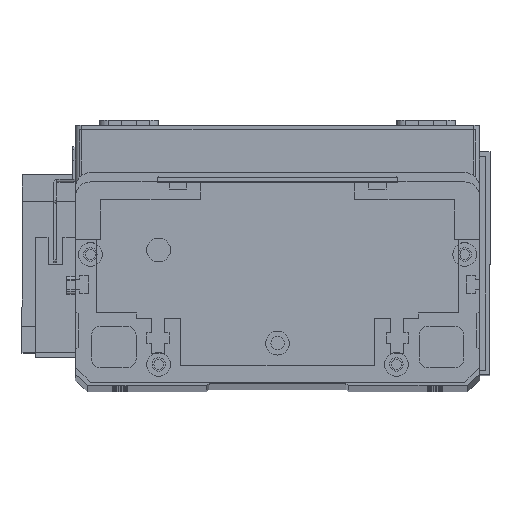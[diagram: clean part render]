
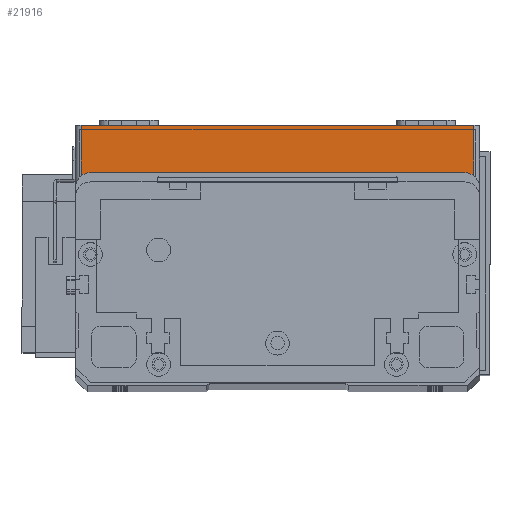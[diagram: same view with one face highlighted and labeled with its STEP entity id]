
A CAD part, top view. The second image highlights one B-rep face of the part: STEP entity #21916.
In plain terms, the highlighted planar face has unit normal (0, 0, 1) as drawn and (0, -1, 0) by its records, which use the part's own axes.
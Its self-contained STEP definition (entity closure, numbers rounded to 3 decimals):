
#408 = CARTESIAN_POINT ( 'NONE',  ( 134., 0., 19.5 ) ) ;
#2335 = CARTESIAN_POINT ( 'NONE',  ( 2., 0., 0. ) ) ;
#2767 = EDGE_CURVE ( 'NONE', #10361, #13348, #5328, .T. ) ;
#2958 = AXIS2_PLACEMENT_3D ( 'NONE', #16730, #3084, #19058 ) ;
#3073 = VERTEX_POINT ( 'NONE', #408 ) ;
#3084 = DIRECTION ( 'NONE',  ( 0., 1., 0. ) ) ;
#5201 = CARTESIAN_POINT ( 'NONE',  ( 134., 0., 0. ) ) ;
#5328 = LINE ( 'NONE', #14499, #16737 ) ;
#5419 = VECTOR ( 'NONE', #17245, 1000. ) ;
#5430 = EDGE_CURVE ( 'NONE', #15878, #3073, #17632, .T. ) ;
#6381 = EDGE_CURVE ( 'NONE', #13348, #15878, #17571, .T. ) ;
#7484 = DIRECTION ( 'NONE',  ( 1., 0., 0. ) ) ;
#8709 = CARTESIAN_POINT ( 'NONE',  ( 0., 0., 19.5 ) ) ;
#8806 = ORIENTED_EDGE ( 'NONE', *, *, #10750, .F. ) ;
#9519 = VECTOR ( 'NONE', #7484, 1000. ) ;
#10225 = LINE ( 'NONE', #8709, #9519 ) ;
#10361 = VERTEX_POINT ( 'NONE', #28053 ) ;
#10750 = EDGE_CURVE ( 'NONE', #10361, #3073, #10225, .T. ) ;
#13085 = ORIENTED_EDGE ( 'NONE', *, *, #2767, .T. ) ;
#13348 = VERTEX_POINT ( 'NONE', #2335 ) ;
#14090 = DIRECTION ( 'NONE',  ( 0., 0., -1. ) ) ;
#14499 = CARTESIAN_POINT ( 'NONE',  ( 2., 0., 19.5 ) ) ;
#14551 = ORIENTED_EDGE ( 'NONE', *, *, #6381, .T. ) ;
#15878 = VERTEX_POINT ( 'NONE', #5201 ) ;
#16730 = CARTESIAN_POINT ( 'NONE',  ( 0., 0., 19.5 ) ) ;
#16737 = VECTOR ( 'NONE', #14090, 1000. ) ;
#16905 = VECTOR ( 'NONE', #27990, 1000. ) ;
#17143 = CARTESIAN_POINT ( 'NONE',  ( 0., 0., 0. ) ) ;
#17223 = FACE_OUTER_BOUND ( 'NONE', #19086, .T. ) ;
#17245 = DIRECTION ( 'NONE',  ( 1., 0., 0. ) ) ;
#17571 = LINE ( 'NONE', #17143, #5419 ) ;
#17632 = LINE ( 'NONE', #27246, #16905 ) ;
#18947 = PLANE ( 'NONE',  #2958 ) ;
#19058 = DIRECTION ( 'NONE',  ( 0., 0., 1. ) ) ;
#19086 = EDGE_LOOP ( 'NONE', ( #8806, #13085, #14551, #19260 ) ) ;
#19260 = ORIENTED_EDGE ( 'NONE', *, *, #5430, .T. ) ;
#21916 = ADVANCED_FACE ( 'NONE', ( #17223 ), #18947, .F. ) ;
#27246 = CARTESIAN_POINT ( 'NONE',  ( 134., 0., 19.5 ) ) ;
#27990 = DIRECTION ( 'NONE',  ( 0., 0., 1. ) ) ;
#28053 = CARTESIAN_POINT ( 'NONE',  ( 2., 0., 19.5 ) ) ;
